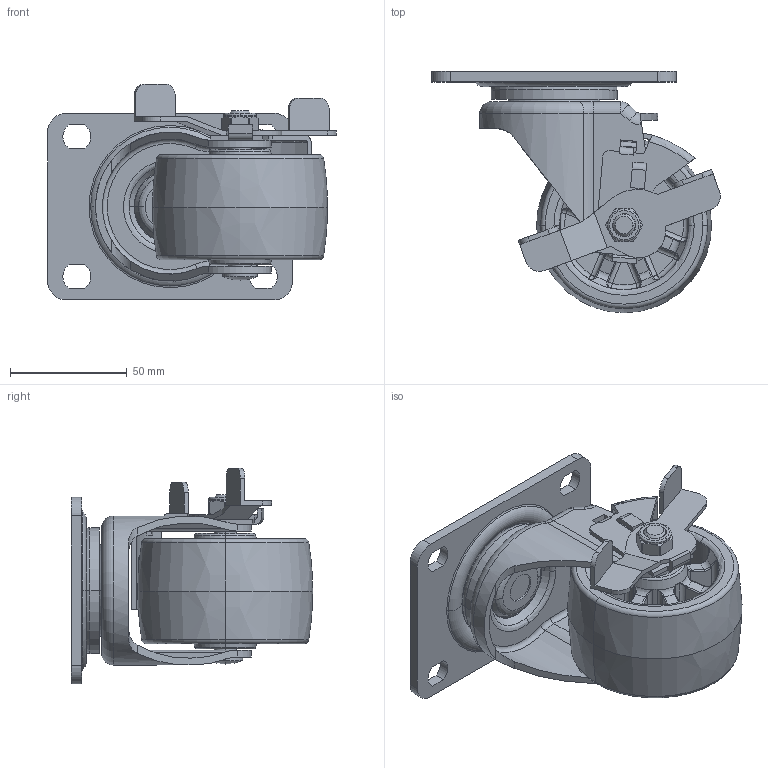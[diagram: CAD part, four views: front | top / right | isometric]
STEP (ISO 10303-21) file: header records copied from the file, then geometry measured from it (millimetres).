
FILE_DESCRIPTION((''),'2;1');
FILE_NAME('6223-03_ASM','2023-01-10T',('lenovo'),(''),'PRO/ENGINEER BY PARAMETRIC TECHNOLOGY CORPORATION, 2010280','PRO/ENGINEER BY PARAMETRIC TECHNOLOGY CORPORATION, 2010280','');
FILE_SCHEMA(('CONFIG_CONTROL_DESIGN'));
Length unit declared in the file: millimetre
Products named in the file (10): 623-11; 620-03; 620-01; 622-33; 623-903; 620-31; 623-15; T673-14; 570-34; 6223-03_ASM
Assembly tree (9 placements, depth 2):
  6223-03_ASM
    623-11
    620-03
    620-01
    622-33
    623-903
    620-31
    623-15
    T673-14
    570-34
Bounding box: 123.79 x 103.5 x 92.5 mm (x, y, z)
Volume: 231408.9 mm3; surface area: 88693.4 mm2
Topology: 9 solids, 9 shells, 967 faces, 2373 edges, 1367 vertices
Faces by surface type: cylinder 261, plane 196, bspline 196, torus 164, sphere 78, cone 72
Entity records: 36126 total; most frequent: CARTESIAN_POINT 15064, ORIENTED_EDGE 4598, DIRECTION 4141, EDGE_CURVE 2299, AXIS2_PLACEMENT_3D 1748, VERTEX_POINT 1367, EDGE_LOOP 1016, FACE_OUTER_BOUND 967
